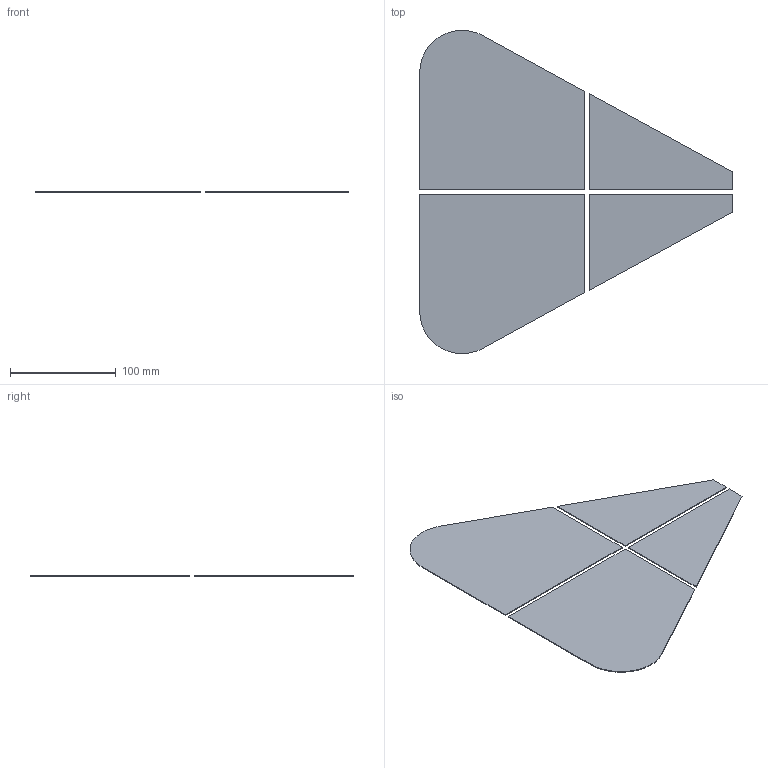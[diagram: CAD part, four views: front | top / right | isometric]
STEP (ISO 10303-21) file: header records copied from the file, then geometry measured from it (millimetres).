
FILE_DESCRIPTION(('STEP AP203'), '1');
FILE_NAME('ìàñêà äåêè âñÿ çàä', '', ('UNSPECIFIED'), ('UNSPECIFIED'), 'ASCON STEP Converter 1.3', 'ASCON Math Kernel', '');
FILE_SCHEMA(('CONFIG_CONTROL_DESIGN'));
Length unit declared in the file: millimetre
Bounding box: 295 x 305.22 x 0.8 mm (x, y, z)
Volume: 43773.7 mm3; surface area: 110953 mm2
Topology: 4 solids, 4 shells, 26 faces, 54 edges, 36 vertices
Faces by surface type: plane 24, cylinder 2
Entity records: 952 total; most frequent: CARTESIAN_POINT 117, DIRECTION 112, ORIENTED_EDGE 108, EDGE_CURVE 54, LINE 50, VECTOR 50, VERTEX_POINT 36, AXIS2_PLACEMENT_3D 31
